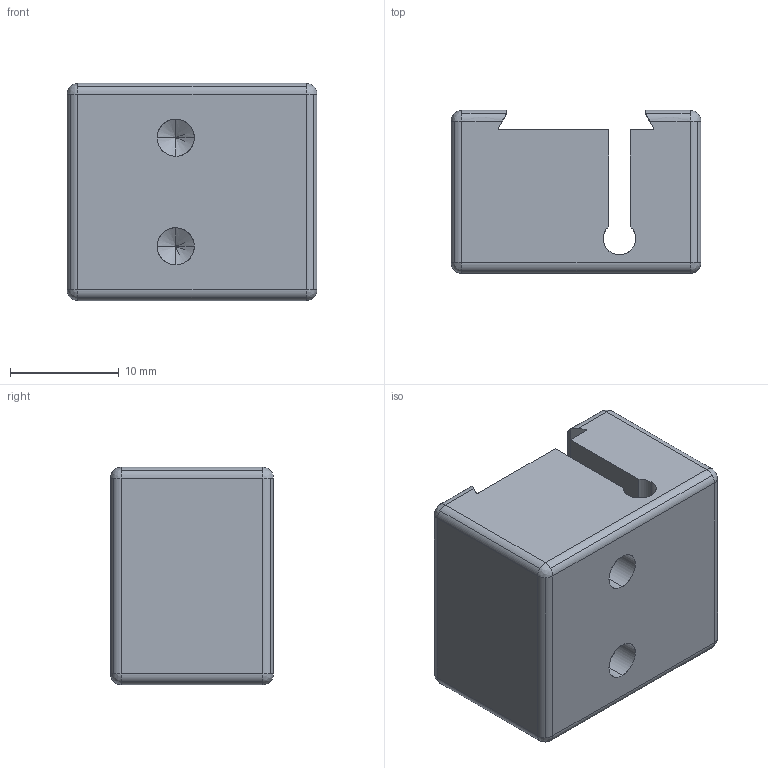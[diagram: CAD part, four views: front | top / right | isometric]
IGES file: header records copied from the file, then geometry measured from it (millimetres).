
Bounding box: 23 x 15 x 20 mm (x, y, z)
Surface area: 3052.4 mm2 (no closed solid volume)
Topology: 0 solids, 0 shells, 81 faces, 1017 edges, 997 vertices
Faces by surface type: bspline 81
